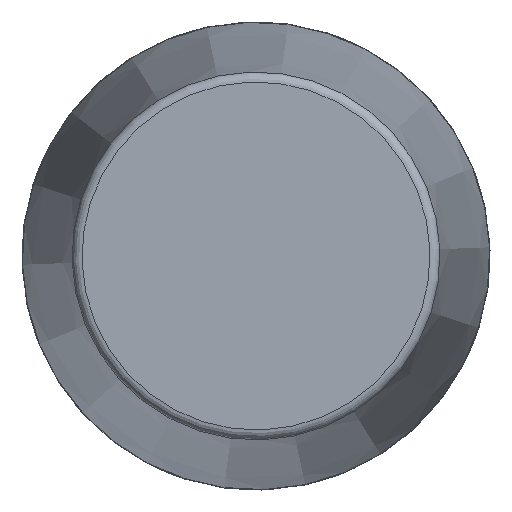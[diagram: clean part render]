
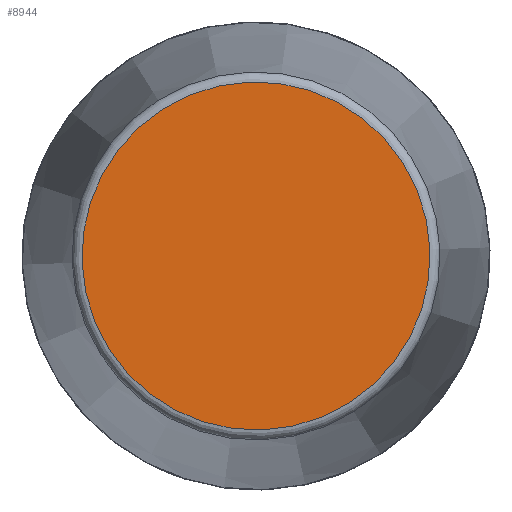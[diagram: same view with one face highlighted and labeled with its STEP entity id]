
A CAD part, front view. The second image highlights one B-rep face of the part: STEP entity #8944.
In plain terms, the highlighted planar face has unit normal (0, -1, 0) as drawn and (1, 0, 0) by its records, which use the part's own axes.
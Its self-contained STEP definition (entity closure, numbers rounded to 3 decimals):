
#218=PLANE('',#9274);
#3029=FACE_OUTER_BOUND('',#3615,.T.);
#3615=EDGE_LOOP('',(#8413));
#3656=CIRCLE('',#9270,87.342);
#4536=VERTEX_POINT('',#17311);
#5831=EDGE_CURVE('',#4536,#4536,#3656,.T.);
#8413=ORIENTED_EDGE('',*,*,#5831,.F.);
#8944=ADVANCED_FACE('',(#3029),#218,.T.);
#9270=AXIS2_PLACEMENT_3D('',#17312,#10454,#10455);
#9274=AXIS2_PLACEMENT_3D('',#17318,#10462,#10463);
#10454=DIRECTION('center_axis',(-1.,0.,0.));
#10455=DIRECTION('ref_axis',(0.,0.,
1.));
#10462=DIRECTION('center_axis',(1.,0.,0.));
#10463=DIRECTION('ref_axis',(0.,0.,-1.));
#17311=CARTESIAN_POINT('',(442.5,0.,-87.342));
#17312=CARTESIAN_POINT('Origin',(442.5,0.,0.));
#17318=CARTESIAN_POINT('Origin',(442.5,0.,0.));
